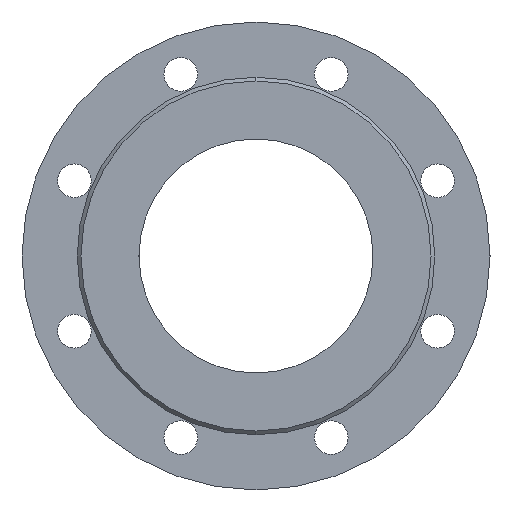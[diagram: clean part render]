
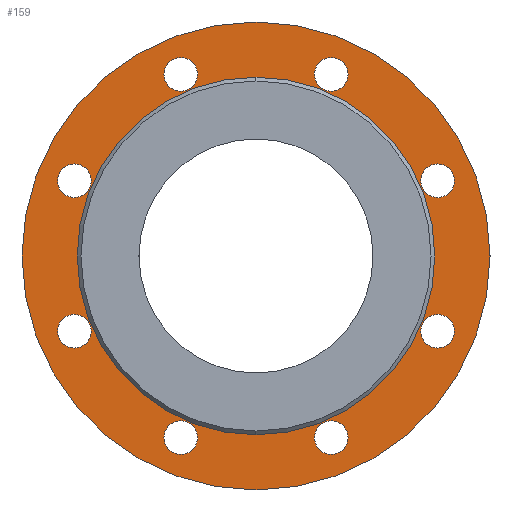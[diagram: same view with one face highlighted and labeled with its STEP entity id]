
A CAD part, left-side view. The second image highlights one B-rep face of the part: STEP entity #159.
In plain terms, the highlighted planar face has unit normal (-1, 0, 0).
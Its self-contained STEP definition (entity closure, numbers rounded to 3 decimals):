
#159=ADVANCED_FACE('',(#353,#354,#355,#356,#357,#358,#359,#360,#361,#362),#363,.F.);
#353=FACE_BOUND('',#615,.T.);
#354=FACE_BOUND('',#616,.T.);
#355=FACE_BOUND('',#617,.T.);
#356=FACE_BOUND('',#618,.T.);
#357=FACE_BOUND('',#619,.T.);
#358=FACE_BOUND('',#620,.T.);
#359=FACE_BOUND('',#621,.T.);
#360=FACE_BOUND('',#622,.T.);
#361=FACE_BOUND('',#623,.T.);
#362=FACE_OUTER_BOUND('',#624,.T.);
#363=PLANE('',#625);
#615=EDGE_LOOP('',(#933,#934));
#616=EDGE_LOOP('',(#935,#936));
#617=EDGE_LOOP('',(#937,#938));
#618=EDGE_LOOP('',(#939,#940));
#619=EDGE_LOOP('',(#941,#942));
#620=EDGE_LOOP('',(#943,#944));
#621=EDGE_LOOP('',(#945,#946));
#622=EDGE_LOOP('',(#947,#948));
#623=EDGE_LOOP('',(#949,#950));
#624=EDGE_LOOP('',(#951,#952));
#625=AXIS2_PLACEMENT_3D('',#953,#954,#955);
#933=ORIENTED_EDGE('',*,*,#1353,.T.);
#934=ORIENTED_EDGE('',*,*,#1448,.T.);
#935=ORIENTED_EDGE('',*,*,#1404,.T.);
#936=ORIENTED_EDGE('',*,*,#1449,.T.);
#937=ORIENTED_EDGE('',*,*,#1450,.T.);
#938=ORIENTED_EDGE('',*,*,#1451,.T.);
#939=ORIENTED_EDGE('',*,*,#1452,.T.);
#940=ORIENTED_EDGE('',*,*,#1445,.T.);
#941=ORIENTED_EDGE('',*,*,#1365,.T.);
#942=ORIENTED_EDGE('',*,*,#1453,.T.);
#943=ORIENTED_EDGE('',*,*,#1454,.T.);
#944=ORIENTED_EDGE('',*,*,#1455,.T.);
#945=ORIENTED_EDGE('',*,*,#1456,.T.);
#946=ORIENTED_EDGE('',*,*,#1457,.T.);
#947=ORIENTED_EDGE('',*,*,#1458,.T.);
#948=ORIENTED_EDGE('',*,*,#1459,.T.);
#949=ORIENTED_EDGE('',*,*,#1460,.T.);
#950=ORIENTED_EDGE('',*,*,#1461,.T.);
#951=ORIENTED_EDGE('',*,*,#1462,.F.);
#952=ORIENTED_EDGE('',*,*,#1463,.F.);
#953=CARTESIAN_POINT('',(2.0,0.0,0.));
#954=DIRECTION('',(1.0,0.0,0.));
#955=DIRECTION('',(0.,0.0,-1.0));
#1353=EDGE_CURVE('',#1578,#1576,#1579,.T.);
#1365=EDGE_CURVE('',#1594,#1598,#1600,.T.);
#1404=EDGE_CURVE('',#1665,#1667,#1669,.T.);
#1445=EDGE_CURVE('',#1739,#1737,#1740,.T.);
#1448=EDGE_CURVE('',#1576,#1578,#1743,.T.);
#1449=EDGE_CURVE('',#1667,#1665,#1744,.T.);
#1450=EDGE_CURVE('',#1745,#1746,#1747,.T.);
#1451=EDGE_CURVE('',#1746,#1745,#1748,.T.);
#1452=EDGE_CURVE('',#1737,#1739,#1749,.T.);
#1453=EDGE_CURVE('',#1598,#1594,#1750,.T.);
#1454=EDGE_CURVE('',#1751,#1752,#1753,.T.);
#1455=EDGE_CURVE('',#1752,#1751,#1754,.T.);
#1456=EDGE_CURVE('',#1755,#1756,#1757,.T.);
#1457=EDGE_CURVE('',#1756,#1755,#1758,.T.);
#1458=EDGE_CURVE('',#1759,#1760,#1761,.T.);
#1459=EDGE_CURVE('',#1760,#1759,#1762,.T.);
#1460=EDGE_CURVE('',#1763,#1764,#1765,.T.);
#1461=EDGE_CURVE('',#1764,#1763,#1766,.T.);
#1462=EDGE_CURVE('',#1767,#1768,#1769,.T.);
#1463=EDGE_CURVE('',#1768,#1767,#1770,.T.);
#1576=VERTEX_POINT('',#1903);
#1578=VERTEX_POINT('',#1906);
#1579=CIRCLE('',#1907,62.5);
#1594=VERTEX_POINT('',#1925);
#1598=VERTEX_POINT('',#1930);
#1600=CIRCLE('',#1933,9.0);
#1665=VERTEX_POINT('',#2004);
#1667=VERTEX_POINT('',#2007);
#1669=CIRCLE('',#2010,9.0);
#1737=VERTEX_POINT('',#2086);
#1739=VERTEX_POINT('',#2089);
#1740=CIRCLE('',#2090,9.0);
#1743=CIRCLE('',#2094,62.5);
#1744=CIRCLE('',#2095,9.0);
#1745=VERTEX_POINT('',#2096);
#1746=VERTEX_POINT('',#2097);
#1747=CIRCLE('',#2098,9.0);
#1748=CIRCLE('',#2099,9.0);
#1749=CIRCLE('',#2100,9.0);
#1750=CIRCLE('',#2101,9.0);
#1751=VERTEX_POINT('',#2102);
#1752=VERTEX_POINT('',#2103);
#1753=CIRCLE('',#2104,9.0);
#1754=CIRCLE('',#2105,9.0);
#1755=VERTEX_POINT('',#2106);
#1756=VERTEX_POINT('',#2107);
#1757=CIRCLE('',#2108,9.0);
#1758=CIRCLE('',#2109,9.0);
#1759=VERTEX_POINT('',#2110);
#1760=VERTEX_POINT('',#2111);
#1761=CIRCLE('',#2112,9.0);
#1762=CIRCLE('',#2113,9.0);
#1763=VERTEX_POINT('',#2114);
#1764=VERTEX_POINT('',#2115);
#1765=CIRCLE('',#2116,9.0);
#1766=CIRCLE('',#2117,9.0);
#1767=VERTEX_POINT('',#2118);
#1768=VERTEX_POINT('',#2119);
#1769=CIRCLE('',#2120,125.0);
#1770=CIRCLE('',#2121,125.0);
#1903=CARTESIAN_POINT('',(2.0,0.,-62.5));
#1906=CARTESIAN_POINT('',(2.0,0.,62.5));
#1907=AXIS2_PLACEMENT_3D('',#2281,#2282,#2283);
#1925=CARTESIAN_POINT('',(2.0,-40.182,88.007));
#1930=CARTESIAN_POINT('',(2.,-40.182,106.007));
#1933=AXIS2_PLACEMENT_3D('',#2301,#2302,#2303);
#2004=CARTESIAN_POINT('',(2.0,97.007,-49.182));
#2007=CARTESIAN_POINT('',(2.0,97.007,-31.182));
#2010=AXIS2_PLACEMENT_3D('',#2384,#2385,#2386);
#2086=CARTESIAN_POINT('',(2.0,-97.007,31.182));
#2089=CARTESIAN_POINT('',(2.0,-97.007,49.182));
#2090=AXIS2_PLACEMENT_3D('',#2468,#2469,#2470);
#2094=AXIS2_PLACEMENT_3D('',#2472,#2473,#2474);
#2095=AXIS2_PLACEMENT_3D('',#2475,#2476,#2477);
#2096=CARTESIAN_POINT('',(2.0,40.182,-106.007));
#2097=CARTESIAN_POINT('',(2.0,40.182,-88.007));
#2098=AXIS2_PLACEMENT_3D('',#2478,#2479,#2480);
#2099=AXIS2_PLACEMENT_3D('',#2481,#2482,#2483);
#2100=AXIS2_PLACEMENT_3D('',#2484,#2485,#2486);
#2101=AXIS2_PLACEMENT_3D('',#2487,#2488,#2489);
#2102=CARTESIAN_POINT('',(2.0,97.007,31.182));
#2103=CARTESIAN_POINT('',(2.0,97.007,49.182));
#2104=AXIS2_PLACEMENT_3D('',#2490,#2491,#2492);
#2105=AXIS2_PLACEMENT_3D('',#2493,#2494,#2495);
#2106=CARTESIAN_POINT('',(2.0,40.182,88.007));
#2107=CARTESIAN_POINT('',(2.,40.182,106.007));
#2108=AXIS2_PLACEMENT_3D('',#2496,#2497,#2498);
#2109=AXIS2_PLACEMENT_3D('',#2499,#2500,#2501);
#2110=CARTESIAN_POINT('',(2.0,-97.007,-49.182));
#2111=CARTESIAN_POINT('',(2.0,-97.007,-31.182));
#2112=AXIS2_PLACEMENT_3D('',#2502,#2503,#2504);
#2113=AXIS2_PLACEMENT_3D('',#2505,#2506,#2507);
#2114=CARTESIAN_POINT('',(2.0,-40.182,-106.007));
#2115=CARTESIAN_POINT('',(2.0,-40.182,-88.007));
#2116=AXIS2_PLACEMENT_3D('',#2508,#2509,#2510);
#2117=AXIS2_PLACEMENT_3D('',#2511,#2512,#2513);
#2118=CARTESIAN_POINT('',(2.,0.0,-125.0));
#2119=CARTESIAN_POINT('',(2.,0.,125.0));
#2120=AXIS2_PLACEMENT_3D('',#2514,#2515,#2516);
#2121=AXIS2_PLACEMENT_3D('',#2517,#2518,#2519);
#2281=CARTESIAN_POINT('',(2.0,0.0,0.));
#2282=DIRECTION('',(1.0,0.0,0.));
#2283=DIRECTION('',(0.,0.0,-1.0));
#2301=CARTESIAN_POINT('',(2.,-40.182,97.007));
#2302=DIRECTION('',(1.0,0.0,0.));
#2303=DIRECTION('',(0.,0.0,-1.0));
#2384=CARTESIAN_POINT('',(2.0,97.007,-40.182));
#2385=DIRECTION('',(1.0,0.0,0.));
#2386=DIRECTION('',(0.,0.0,-1.0));
#2468=CARTESIAN_POINT('',(2.0,-97.007,40.182));
#2469=DIRECTION('',(1.0,0.0,0.));
#2470=DIRECTION('',(0.,0.0,-1.0));
#2472=CARTESIAN_POINT('',(2.0,0.0,0.));
#2473=DIRECTION('',(1.0,0.0,0.));
#2474=DIRECTION('',(0.,0.0,-1.0));
#2475=CARTESIAN_POINT('',(2.0,97.007,-40.182));
#2476=DIRECTION('',(1.0,0.0,0.));
#2477=DIRECTION('',(0.,0.0,-1.0));
#2478=CARTESIAN_POINT('',(2.,40.182,-97.007));
#2479=DIRECTION('',(1.0,0.0,0.));
#2480=DIRECTION('',(0.,0.0,-1.0));
#2481=CARTESIAN_POINT('',(2.,40.182,-97.007));
#2482=DIRECTION('',(1.0,0.0,0.));
#2483=DIRECTION('',(0.,0.0,-1.0));
#2484=CARTESIAN_POINT('',(2.0,-97.007,40.182));
#2485=DIRECTION('',(1.0,0.0,0.));
#2486=DIRECTION('',(0.,0.0,-1.0));
#2487=CARTESIAN_POINT('',(2.,-40.182,97.007));
#2488=DIRECTION('',(1.0,0.0,0.));
#2489=DIRECTION('',(0.,0.0,-1.0));
#2490=CARTESIAN_POINT('',(2.0,97.007,40.182));
#2491=DIRECTION('',(1.0,0.0,0.));
#2492=DIRECTION('',(0.,0.0,-1.0));
#2493=CARTESIAN_POINT('',(2.0,97.007,40.182));
#2494=DIRECTION('',(1.0,0.0,0.));
#2495=DIRECTION('',(0.,0.0,-1.0));
#2496=CARTESIAN_POINT('',(2.,40.182,97.007));
#2497=DIRECTION('',(1.0,0.0,0.));
#2498=DIRECTION('',(0.,0.0,-1.0));
#2499=CARTESIAN_POINT('',(2.,40.182,97.007));
#2500=DIRECTION('',(1.0,0.0,0.));
#2501=DIRECTION('',(0.,0.0,-1.0));
#2502=CARTESIAN_POINT('',(2.0,-97.007,-40.182));
#2503=DIRECTION('',(1.0,0.0,0.));
#2504=DIRECTION('',(0.,0.0,-1.0));
#2505=CARTESIAN_POINT('',(2.0,-97.007,-40.182));
#2506=DIRECTION('',(1.0,0.0,0.));
#2507=DIRECTION('',(0.,0.0,-1.0));
#2508=CARTESIAN_POINT('',(2.,-40.182,-97.007));
#2509=DIRECTION('',(1.0,0.0,0.));
#2510=DIRECTION('',(0.,0.0,-1.0));
#2511=CARTESIAN_POINT('',(2.,-40.182,-97.007));
#2512=DIRECTION('',(1.0,0.0,0.));
#2513=DIRECTION('',(0.,0.0,-1.0));
#2514=CARTESIAN_POINT('',(2.0,0.0,0.));
#2515=DIRECTION('',(1.0,0.0,0.));
#2516=DIRECTION('',(0.,0.0,-1.0));
#2517=CARTESIAN_POINT('',(2.0,0.0,0.));
#2518=DIRECTION('',(1.0,0.0,0.));
#2519=DIRECTION('',(0.,0.0,-1.0));
